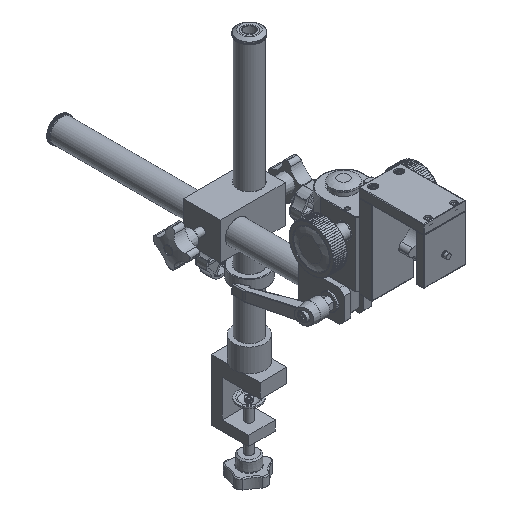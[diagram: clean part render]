
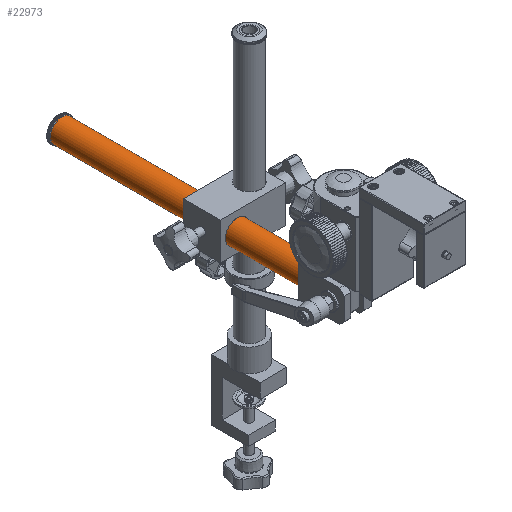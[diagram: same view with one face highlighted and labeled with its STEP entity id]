
A CAD part, isometric view. The second image highlights one B-rep face of the part: STEP entity #22973.
In plain terms, the highlighted cylindrical face has radius 12.5 mm (diameter 25 mm), a full revolution.
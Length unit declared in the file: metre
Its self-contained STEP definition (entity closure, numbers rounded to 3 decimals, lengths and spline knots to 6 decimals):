
#22973=ADVANCED_FACE('0:20507',(#46638,#46639),#46640,.T.);
#23493=EDGE_CURVE('0:21319',#47446,#47446,#47447,.T.);
#23495=EDGE_CURVE('0:21322',#47449,#47449,#47450,.T.);
#46638=FACE_OUTER_BOUND('',#132083,.T.);
#46639=FACE_OUTER_BOUND('',#132084,.T.);
#46640=CYLINDRICAL_SURFACE('',#132085,0.0125);
#47446=VERTEX_POINT('',#133534);
#47447=CIRCLE('',#133535,0.0125);
#47449=VERTEX_POINT('',#133538);
#47450=CIRCLE('',#133539,0.0125);
#132083=EDGE_LOOP('',(#167445));
#132084=EDGE_LOOP('',(#167446));
#132085=AXIS2_PLACEMENT_3D('',#167447,#167448,#167449);
#133534=CARTESIAN_POINT('',(-0.0455,0.259017,-0.002635));
#133535=AXIS2_PLACEMENT_3D('',#168686,#168687,#168688);
#133538=CARTESIAN_POINT('',(-0.0455,-0.010983,-0.002635));
#133539=AXIS2_PLACEMENT_3D('',#168689,#168690,#168691);
#167445=ORIENTED_EDGE('',*,*,#23493,.F.);
#167446=ORIENTED_EDGE('',*,*,#23495,.F.);
#167447=CARTESIAN_POINT('',(-0.033,-0.010983,-0.002635));
#167448=DIRECTION('',(0.,1.0,0.));
#167449=DIRECTION('',(-1.0,0.,0.));
#168686=CARTESIAN_POINT('',(-0.033,0.259017,-0.002635));
#168687=DIRECTION('',(0.,1.0,0.));
#168688=DIRECTION('',(-1.0,0.,0.));
#168689=CARTESIAN_POINT('',(-0.033,-0.010983,-0.002635));
#168690=DIRECTION('',(0.,-1.0,0.));
#168691=DIRECTION('',(-1.0,0.,0.));
